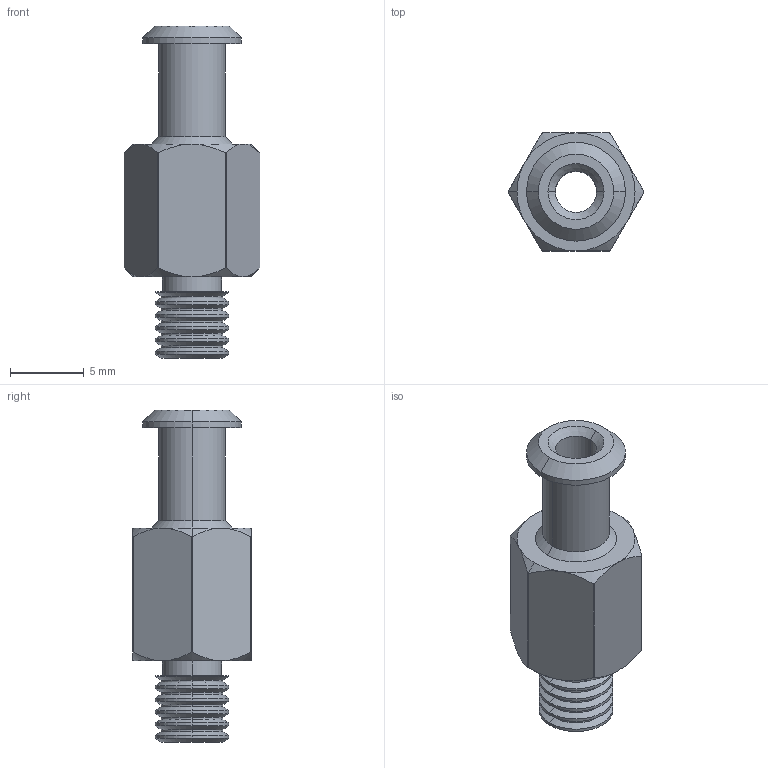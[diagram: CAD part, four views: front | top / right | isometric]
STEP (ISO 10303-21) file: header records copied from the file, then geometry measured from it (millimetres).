
FILE_DESCRIPTION (( 'STEP AP214' ), '1' );
FILE_NAME ('VM18-M5.STEP', '2019-11-14T02:41:17', ( '微软用户' ), ( '微软中国' ), 'SwSTEP 2.0', 'SolidWorks 2016', '' );
FILE_SCHEMA (( 'AUTOMOTIVE_DESIGN' ));
Length unit declared in the file: millimetre
Products named in the file (1): VM18-M5
Bounding box: 9.2 x 8 x 22.5 mm (x, y, z)
Volume: 592 mm3; surface area: 802.9 mm2
Topology: 1 solids, 1 shells, 91 faces, 194 edges, 109 vertices
Faces by surface type: cone 42, cylinder 37, plane 12
Entity records: 2559 total; most frequent: CARTESIAN_POINT 547, DIRECTION 451, ORIENTED_EDGE 388, EDGE_CURVE 194, AXIS2_PLACEMENT_3D 189, VERTEX_POINT 109, EDGE_LOOP 97, CIRCLE 97
